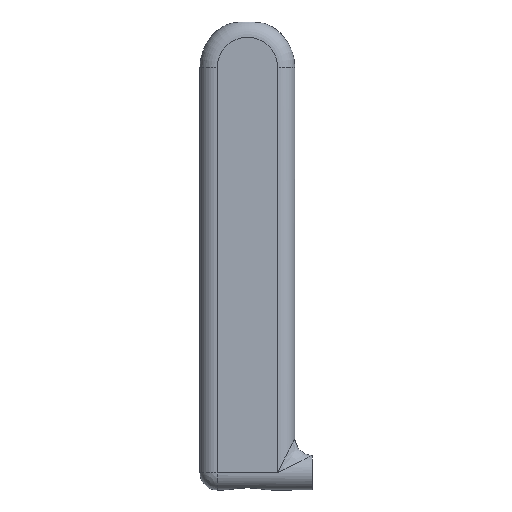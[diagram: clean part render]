
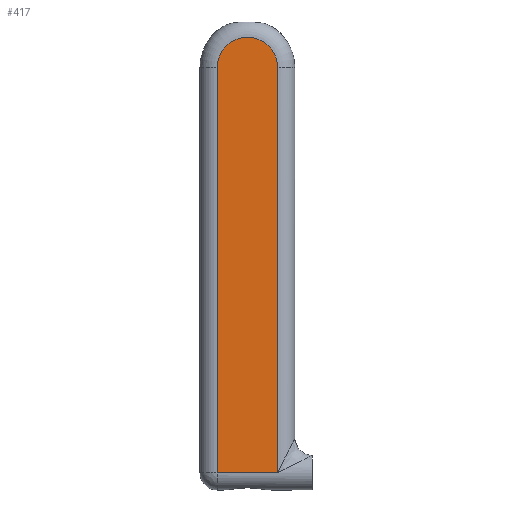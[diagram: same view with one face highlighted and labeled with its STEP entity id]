
A CAD part, front view. The second image highlights one B-rep face of the part: STEP entity #417.
In plain terms, the highlighted planar face has unit normal (0, -1, 0).
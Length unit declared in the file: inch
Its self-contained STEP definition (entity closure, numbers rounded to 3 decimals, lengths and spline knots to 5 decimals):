
#30=PLANE('',#484);
#57=FACE_OUTER_BOUND('',#82,.T.);
#82=EDGE_LOOP('',(#378,#379,#380,#381));
#90=LINE('',#773,#113);
#98=LINE('',#887,#121);
#105=LINE('',#909,#128);
#113=VECTOR('',#534,0.55118);
#121=VECTOR('',#576,3.70079);
#128=VECTOR('',#609,3.70079);
#135=CIRCLE('',#440,0.27559);
#176=VERTEX_POINT('',#742);
#177=VERTEX_POINT('',#744);
#186=VERTEX_POINT('',#770);
#187=VERTEX_POINT('',#772);
#214=EDGE_CURVE('',#176,#177,#135,.T.);
#228=EDGE_CURVE('',#186,#187,#90,.T.);
#247=EDGE_CURVE('',#177,#186,#98,.T.);
#259=EDGE_CURVE('',#187,#176,#105,.T.);
#378=ORIENTED_EDGE('',*,*,#247,.F.);
#379=ORIENTED_EDGE('',*,*,#214,.F.);
#380=ORIENTED_EDGE('',*,*,#259,.F.);
#381=ORIENTED_EDGE('',*,*,#228,.F.);
#417=ADVANCED_FACE('',(#57),#30,.F.);
#440=AXIS2_PLACEMENT_3D('',#745,#504,#505);
#484=AXIS2_PLACEMENT_3D('',#912,#614,#615);
#504=DIRECTION('center_axis',(0.,1.,0.));
#505=DIRECTION('ref_axis',(0.,0.,1.));
#534=DIRECTION('',(-1.,0.,0.));
#576=DIRECTION('',(0.,0.,-1.));
#609=DIRECTION('',(0.,0.,1.));
#614=DIRECTION('center_axis',(0.,1.,0.));
#615=DIRECTION('ref_axis',(0.,0.,1.));
#742=CARTESIAN_POINT('',(-0.27559,-0.43307,3.89764));
#744=CARTESIAN_POINT('',(0.27559,-0.43307,3.89764));
#745=CARTESIAN_POINT('Origin',(0.,-0.43307,
3.89764));
#770=CARTESIAN_POINT('',(0.27559,-0.43307,0.19685));
#772=CARTESIAN_POINT('',(-0.27559,-0.43307,0.19685));
#773=CARTESIAN_POINT('',(0.27559,-0.43307,0.19685));
#887=CARTESIAN_POINT('',(0.27559,-0.43307,3.89764));
#909=CARTESIAN_POINT('',(-0.27559,-0.43307,0.19685));
#912=CARTESIAN_POINT('Origin',(0.,-0.43307,
3.89764));
